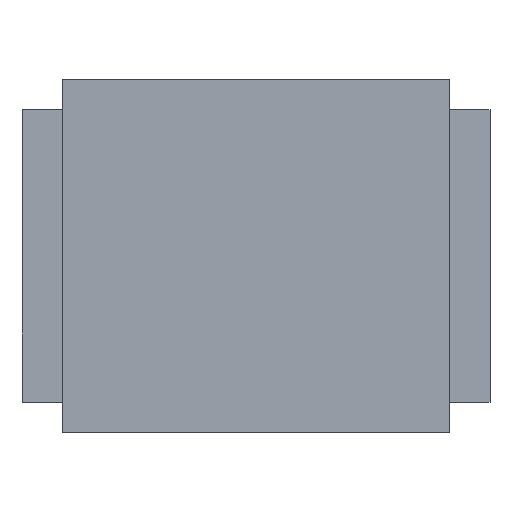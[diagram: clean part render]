
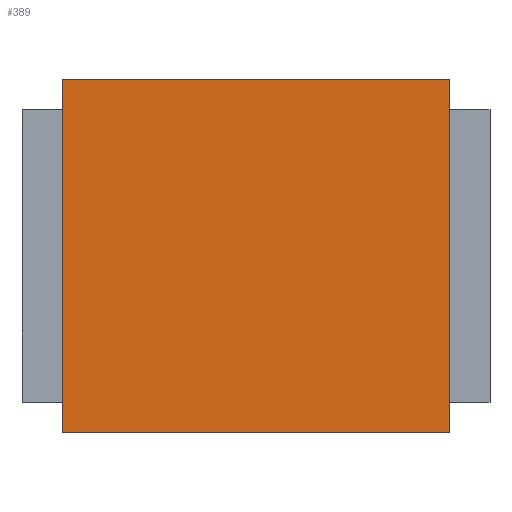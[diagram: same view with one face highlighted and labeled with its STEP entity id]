
A CAD part, top view. The second image highlights one B-rep face of the part: STEP entity #389.
In plain terms, the highlighted planar face has unit normal (0, 0, 1).
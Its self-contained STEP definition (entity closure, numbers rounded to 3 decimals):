
#389=ADVANCED_FACE('',(#645),#647,.T.);
#645=FACE_BOUND('',#646,.T.);
#646=EDGE_LOOP('',(#1012,#1013,#1014,#1015));
#647=PLANE('',#648);
#648=AXIS2_PLACEMENT_3D('',#649,#650,#651);
#649=CARTESIAN_POINT('',(0.,0.,0.945));
#650=DIRECTION('',(0.,0.,1.));
#651=DIRECTION('',(1.,0.,0.));
#1012=ORIENTED_EDGE('',*,*,#1238,.T.);
#1013=ORIENTED_EDGE('',*,*,#1236,.T.);
#1014=ORIENTED_EDGE('',*,*,#1226,.T.);
#1015=ORIENTED_EDGE('',*,*,#1248,.T.);
#1226=EDGE_CURVE('',#1465,#1463,#1466,.F.);
#1236=EDGE_CURVE('',#1480,#1465,#1481,.T.);
#1238=EDGE_CURVE('',#1483,#1480,#1484,.F.);
#1248=EDGE_CURVE('',#1463,#1483,#1498,.T.);
#1463=VERTEX_POINT('',#1786);
#1465=VERTEX_POINT('',#1790);
#1466=LINE('',#1791,#1792);
#1480=VERTEX_POINT('',#1825);
#1481=LINE('',#1826,#1827);
#1483=VERTEX_POINT('',#1832);
#1484=LINE('',#1833,#1834);
#1498=LINE('',#1867,#1868);
#1786=CARTESIAN_POINT('',(0.947,0.865,0.945));
#1790=CARTESIAN_POINT('',(0.947,-0.865,0.945));
#1791=CARTESIAN_POINT('',(0.947,0.865,0.945));
#1792=VECTOR('',#1793,1.);
#1793=DIRECTION('',(0.,-1.,0.));
#1825=CARTESIAN_POINT('',(-0.947,-0.865,0.945));
#1826=CARTESIAN_POINT('',(-0.947,-0.865,0.945));
#1827=VECTOR('',#1828,1.);
#1828=DIRECTION('',(1.,0.,0.));
#1832=CARTESIAN_POINT('',(-0.947,0.865,0.945));
#1833=CARTESIAN_POINT('',(-0.947,-0.865,0.945));
#1834=VECTOR('',#1835,1.);
#1835=DIRECTION('',(0.,1.,0.));
#1867=CARTESIAN_POINT('',(0.947,0.865,0.945));
#1868=VECTOR('',#1869,1.);
#1869=DIRECTION('',(-1.,0.,0.));
